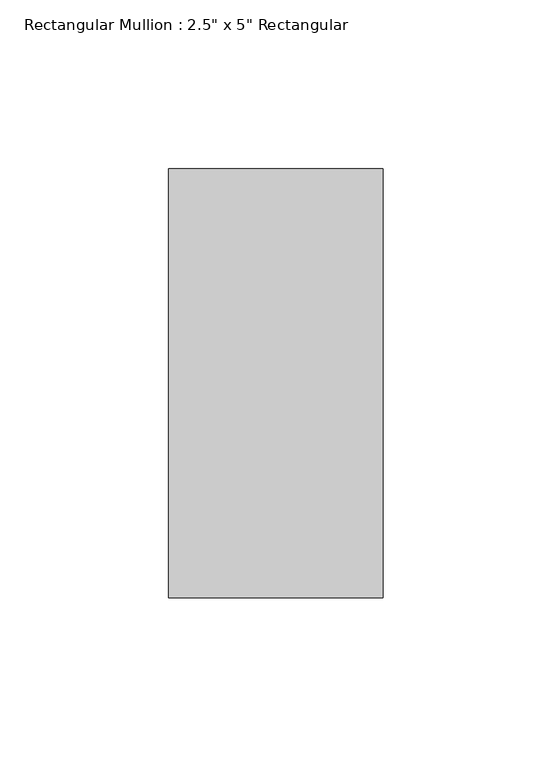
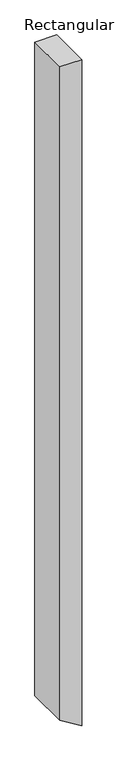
"""IFC4 building model written with IfcOpenShell, lengths in millimetres: member geometry."""

from ifc_helpers import new_model, si_unit, frame, origin, place, context, project, spatial, polyline, outline, extrude, source, transform, mapped, element, save


def member_3ba4cfb8(model_context):
    return source(origin(), model_context, "Body", "SweptSolid", [
        extrude(outline(polyline([(0.0, 0.0), (0.0, -63.5), (-2022.4210429, -63.5), (-2061.6662011, 0.0), (0.0, 0.0)])), frame((0.0, -63.5, 0.0), z_axis=(0.0, 1.0, 0.0), x_axis=(0.0, 0.0, 1.0)), (0.0, 0.0, 1.0), 127.0),
    ])


if __name__ == "__main__":
    model = new_model("IFC4")
    model_context = context("Model", 3, world=origin())
    ifc_project = project(units=[si_unit("LENGTHUNIT", "METRE", prefix="MILLI")], contexts=[model_context])
    site = spatial("IfcSite", under=ifc_project)
    building = spatial("IfcBuilding", under=site)
    placement = place(None, origin())
    member_shape = member_3ba4cfb8(model_context)
    element("IfcMember", 1, ObjectType="Rectangular Mullion : 2.5\" x 5\" Rectangular", at=placement, inside=building, context=model_context, shape_type="MappedRepresentation", body=[
        mapped(member_shape, transform((0.0, 0.0, 0.0), x_axis=(1.0, 0.0, 0.0), y_axis=(0.0, 1.0, 0.0), z_axis=(0.0, 0.0, 1.0))),
    ])
    save(model, "model.ifc")
